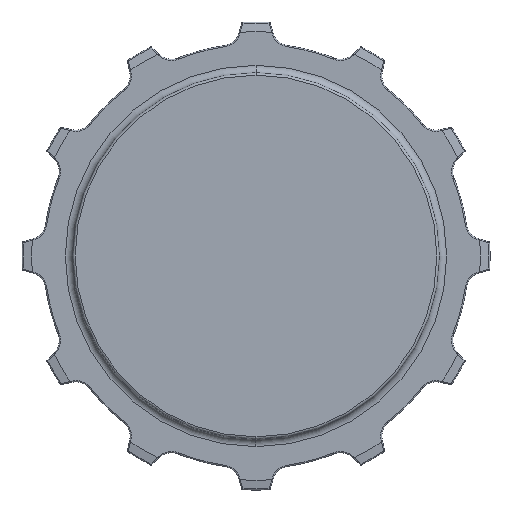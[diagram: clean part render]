
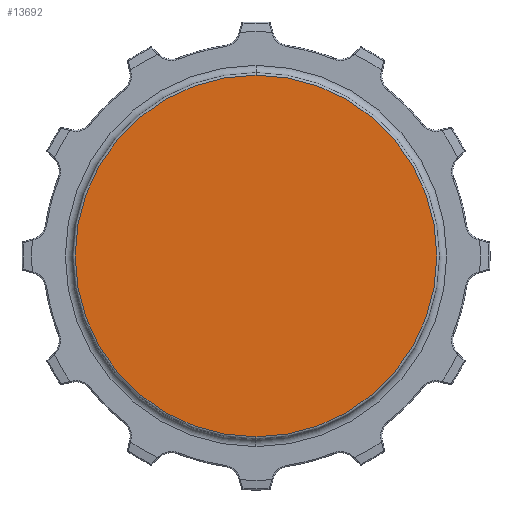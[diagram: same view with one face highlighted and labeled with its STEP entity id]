
A CAD part, left-side view. The second image highlights one B-rep face of the part: STEP entity #13692.
In plain terms, the highlighted planar face has unit normal (-1, 0, 0).
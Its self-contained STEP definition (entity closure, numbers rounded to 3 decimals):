
#361=CARTESIAN_POINT('',(-21.15,0.,0.));
#362=DIRECTION('',(-1.,0.,0.));
#363=DIRECTION('',(0.,0.,1.));
#364=AXIS2_PLACEMENT_3D('',#361,#362,#363);
#366=CARTESIAN_POINT('',(-21.15,0.,0.));
#367=DIRECTION('',(1.,0.,0.));
#368=DIRECTION('',(0.,0.,1.));
#369=AXIS2_PLACEMENT_3D('',#366,#367,#368);
#10492=CARTESIAN_POINT('',(-21.15,0.,74.));
#10493=VERTEX_POINT('',#10492);
#10498=CARTESIAN_POINT('',(-21.15,0.,-74.));
#10499=VERTEX_POINT('',#10498);
#13683=CARTESIAN_POINT('',(-21.15,0.,0.));
#13684=DIRECTION('',(1.,0.,0.));
#13685=DIRECTION('',(0.,0.,-1.));
#13686=AXIS2_PLACEMENT_3D('',#13683,#13684,#13685);
#13687=PLANE('',#13686);
#13688=ORIENTED_EDGE('',*,*,#13676,.F.);
#13689=ORIENTED_EDGE('',*,*,#13665,.T.);
#13690=EDGE_LOOP('',(#13688,#13689));
#13691=FACE_OUTER_BOUND('',#13690,.F.);
#13692=ADVANCED_FACE('',(#13691),#13687,.F.);
#365=CIRCLE('',#364,74.);
#370=CIRCLE('',#369,74.);
#13665=EDGE_CURVE('',#10493,#10499,#370,.T.);
#13676=EDGE_CURVE('',#10493,#10499,#365,.T.);
